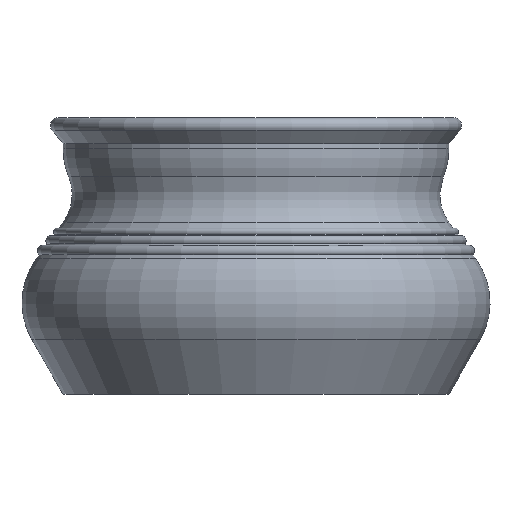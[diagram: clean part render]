
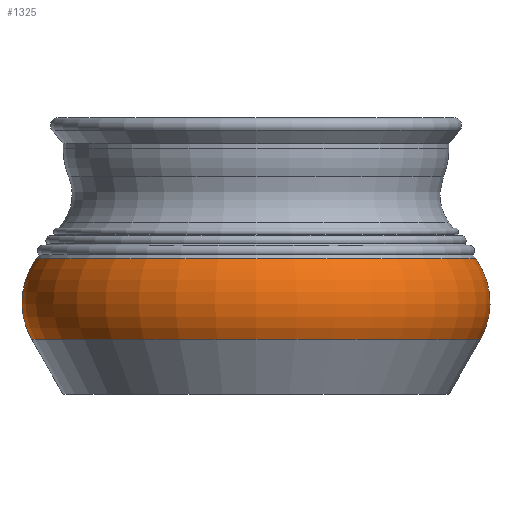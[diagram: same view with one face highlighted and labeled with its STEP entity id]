
A CAD part, front view. The second image highlights one B-rep face of the part: STEP entity #1325.
In plain terms, the highlighted toroidal (fillet/blend) face has major radius 101.136 mm and minor radius 46.864 mm.
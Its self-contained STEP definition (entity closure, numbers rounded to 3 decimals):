
#22=TOROIDAL_SURFACE('',#1505,101.136,46.864);
#166=FACE_OUTER_BOUND('',#284,.T.);
#284=EDGE_LOOP('',(#1208,#1209,#1210,#1211));
#526=CIRCLE('',#1467,141.841);
#549=CIRCLE('',#1506,138.901);
#550=CIRCLE('',#1507,46.864);
#653=VERTEX_POINT('',#2240);
#669=VERTEX_POINT('',#2303);
#818=EDGE_CURVE('',#653,#653,#526,.T.);
#849=EDGE_CURVE('',#669,#669,#549,.T.);
#850=EDGE_CURVE('',#669,#653,#550,.T.);
#1208=ORIENTED_EDGE('',*,*,#849,.F.);
#1209=ORIENTED_EDGE('',*,*,#850,.T.);
#1210=ORIENTED_EDGE('',*,*,#818,.T.);
#1211=ORIENTED_EDGE('',*,*,#850,.F.);
#1325=ADVANCED_FACE('',(#166),#22,.T.);
#1467=AXIS2_PLACEMENT_3D('',#2241,#1837,#1838);
#1505=AXIS2_PLACEMENT_3D('',#2302,#1921,#1922);
#1506=AXIS2_PLACEMENT_3D('',#2304,#1923,#1924);
#1507=AXIS2_PLACEMENT_3D('',#2305,#1925,#1926);
#1837=DIRECTION('center_axis',(0.,0.,1.));
#1838=DIRECTION('ref_axis',(1.,0.,0.));
#1921=DIRECTION('center_axis',(0.,0.,1.));
#1922=DIRECTION('ref_axis',(1.,0.,0.));
#1923=DIRECTION('center_axis',(0.,0.,1.));
#1924=DIRECTION('ref_axis',(1.,0.,0.));
#1925=DIRECTION('center_axis',(0.,-1.,0.));
#1926=DIRECTION('ref_axis',(-1.,0.,0.));
#2240=CARTESIAN_POINT('',(-141.841,0.,34.776));
#2241=CARTESIAN_POINT('Origin',(0.,0.,34.776));
#2302=CARTESIAN_POINT('Origin',(0.,0.,58.));
#2303=CARTESIAN_POINT('',(-138.901,0.,85.75));
#2304=CARTESIAN_POINT('Origin',(0.,0.,85.75));
#2305=CARTESIAN_POINT('Origin',(-101.136,0.,
58.));
